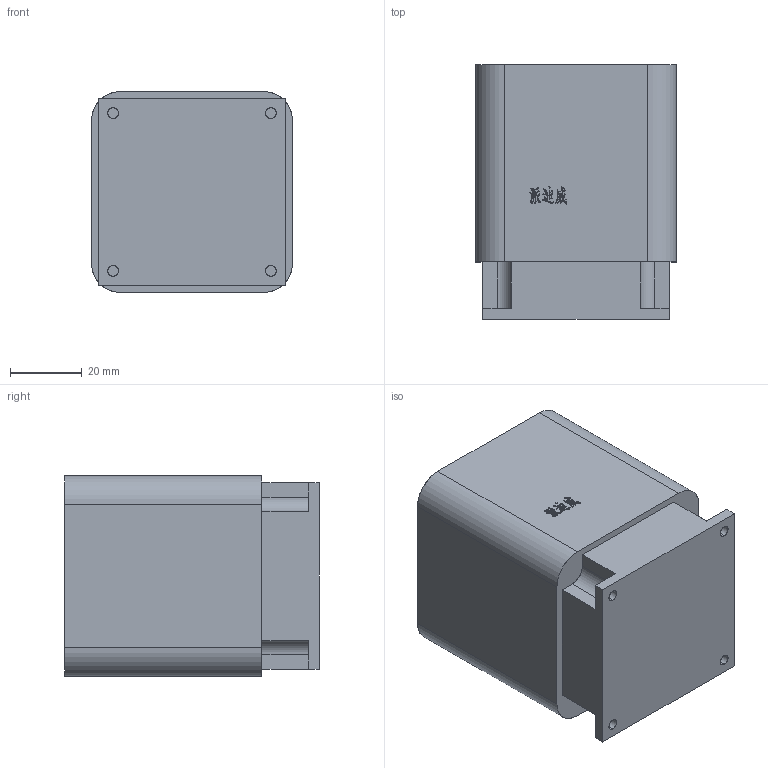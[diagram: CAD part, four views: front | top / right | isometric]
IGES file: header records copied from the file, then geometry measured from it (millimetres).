
Start section: SolidWorks IGES file using analytic representation for surfaces
Global section: file name: C:\Users\dubin\Desktop\9.18-2\萇雄汔蔥怢\PT56-30\PT56-30.IGS; native system: SolidWorks 2017; preprocessor: SolidWorks 2017; author: PDV; date: 220918.154857; units: millimetre
Bounding box: 56 x 71 x 56 mm (x, y, z)
Surface area: 22174.5 mm2 (no closed solid volume)
Topology: 0 solids, 0 shells, 400 faces, 4191 edges, 4167 vertices
Faces by surface type: bspline 336, revolution 64
